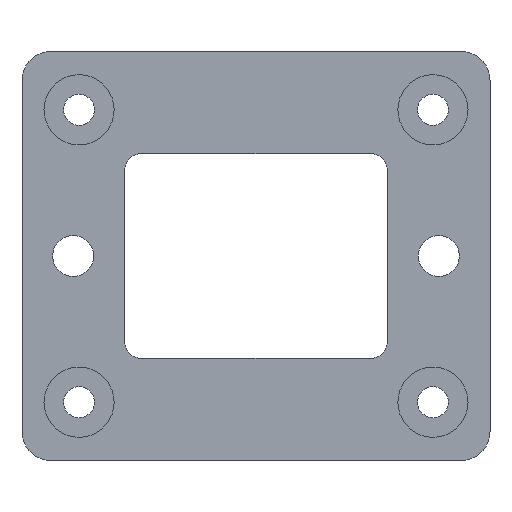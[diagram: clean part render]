
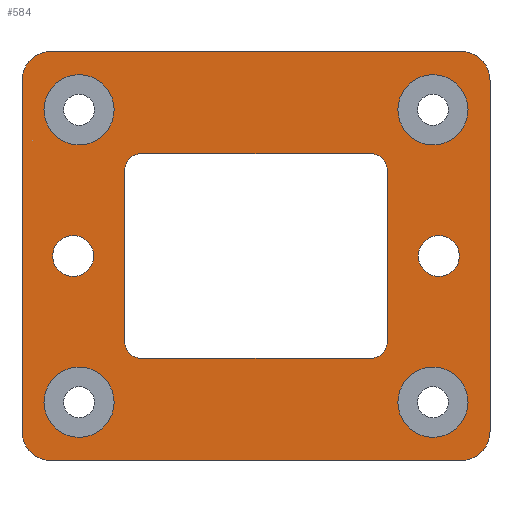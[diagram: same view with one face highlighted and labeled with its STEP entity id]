
A CAD part, front view. The second image highlights one B-rep face of the part: STEP entity #584.
In plain terms, the highlighted planar face has unit normal (0, -1, 0).
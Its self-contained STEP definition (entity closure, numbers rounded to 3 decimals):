
#26=FACE_BOUND('',#122,.T.);
#27=FACE_BOUND('',#123,.T.);
#28=FACE_BOUND('',#124,.T.);
#29=FACE_BOUND('',#125,.T.);
#30=FACE_BOUND('',#126,.T.);
#31=FACE_BOUND('',#127,.T.);
#32=FACE_BOUND('',#128,.T.);
#46=PLANE('',#666);
#78=FACE_OUTER_BOUND('',#121,.T.);
#121=EDGE_LOOP('',(#513,#514,#515,#516,#517,#518,#519,#520));
#122=EDGE_LOOP('',(#521));
#123=EDGE_LOOP('',(#522));
#124=EDGE_LOOP('',(#523));
#125=EDGE_LOOP('',(#524));
#126=EDGE_LOOP('',(#525));
#127=EDGE_LOOP('',(#526));
#128=EDGE_LOOP('',(#527,#528,#529,#530,#531,#532,#533,#534));
#141=LINE('',#923,#183);
#147=LINE('',#938,#189);
#151=LINE('',#950,#193);
#154=LINE('',#959,#196);
#161=LINE('',#985,#203);
#167=LINE('',#1000,#209);
#169=LINE('',#1006,#211);
#170=LINE('',#1008,#212);
#183=VECTOR('',#757,10.);
#189=VECTOR('',#771,10.);
#193=VECTOR('',#783,10.);
#196=VECTOR('',#794,10.);
#203=VECTOR('',#817,10.);
#209=VECTOR('',#833,10.);
#211=VECTOR('',#841,10.);
#212=VECTOR('',#844,10.);
#213=CIRCLE('',#600,6.);
#216=CIRCLE('',#605,6.);
#219=CIRCLE('',#610,6.);
#222=CIRCLE('',#615,6.);
#227=CIRCLE('',#624,3.5);
#231=CIRCLE('',#631,3.5);
#233=CIRCLE('',#634,3.);
#235=CIRCLE('',#638,3.);
#237=CIRCLE('',#642,3.);
#239=CIRCLE('',#646,3.);
#242=CIRCLE('',#651,5.);
#246=CIRCLE('',#658,5.);
#247=CIRCLE('',#660,5.);
#248=CIRCLE('',#663,5.);
#249=VERTEX_POINT('',#849);
#252=VERTEX_POINT('',#858);
#255=VERTEX_POINT('',#867);
#258=VERTEX_POINT('',#876);
#263=VERTEX_POINT('',#893);
#267=VERTEX_POINT('',#907);
#269=VERTEX_POINT('',#913);
#270=VERTEX_POINT('',#914);
#273=VERTEX_POINT('',#922);
#275=VERTEX_POINT('',#928);
#276=VERTEX_POINT('',#929);
#279=VERTEX_POINT('',#940);
#280=VERTEX_POINT('',#941);
#283=VERTEX_POINT('',#952);
#287=VERTEX_POINT('',#964);
#288=VERTEX_POINT('',#966);
#295=VERTEX_POINT('',#984);
#296=VERTEX_POINT('',#988);
#297=VERTEX_POINT('',#992);
#298=VERTEX_POINT('',#994);
#299=VERTEX_POINT('',#998);
#300=VERTEX_POINT('',#1002);
#301=EDGE_CURVE('',#249,#249,#213,.T.);
#305=EDGE_CURVE('',#252,#252,#216,.T.);
#309=EDGE_CURVE('',#255,#255,#219,.T.);
#313=EDGE_CURVE('',#258,#258,#222,.T.);
#321=EDGE_CURVE('',#263,#263,#227,.T.);
#328=EDGE_CURVE('',#267,#267,#231,.T.);
#331=EDGE_CURVE('',#269,#270,#233,.T.);
#335=EDGE_CURVE('',#273,#270,#141,.T.);
#338=EDGE_CURVE('',#275,#276,#235,.T.);
#343=EDGE_CURVE('',#269,#276,#147,.T.);
#344=EDGE_CURVE('',#279,#280,#237,.T.);
#349=EDGE_CURVE('',#275,#280,#151,.T.);
#350=EDGE_CURVE('',#273,#283,#239,.T.);
#354=EDGE_CURVE('',#279,#283,#154,.T.);
#357=EDGE_CURVE('',#287,#288,#242,.T.);
#366=EDGE_CURVE('',#288,#295,#161,.T.);
#368=EDGE_CURVE('',#295,#296,#246,.T.);
#371=EDGE_CURVE('',#297,#298,#247,.T.);
#374=EDGE_CURVE('',#299,#297,#167,.T.);
#376=EDGE_CURVE('',#300,#299,#248,.T.);
#377=EDGE_CURVE('',#296,#300,#169,.T.);
#378=EDGE_CURVE('',#298,#287,#170,.T.);
#513=ORIENTED_EDGE('',*,*,#357,.F.);
#514=ORIENTED_EDGE('',*,*,#378,.F.);
#515=ORIENTED_EDGE('',*,*,#371,.F.);
#516=ORIENTED_EDGE('',*,*,#374,.F.);
#517=ORIENTED_EDGE('',*,*,#376,.F.);
#518=ORIENTED_EDGE('',*,*,#377,.F.);
#519=ORIENTED_EDGE('',*,*,#368,.F.);
#520=ORIENTED_EDGE('',*,*,#366,.F.);
#521=ORIENTED_EDGE('',*,*,#301,.T.);
#522=ORIENTED_EDGE('',*,*,#305,.T.);
#523=ORIENTED_EDGE('',*,*,#309,.T.);
#524=ORIENTED_EDGE('',*,*,#313,.T.);
#525=ORIENTED_EDGE('',*,*,#321,.T.);
#526=ORIENTED_EDGE('',*,*,#328,.T.);
#527=ORIENTED_EDGE('',*,*,#335,.T.);
#528=ORIENTED_EDGE('',*,*,#331,.F.);
#529=ORIENTED_EDGE('',*,*,#343,.T.);
#530=ORIENTED_EDGE('',*,*,#338,.F.);
#531=ORIENTED_EDGE('',*,*,#349,.T.);
#532=ORIENTED_EDGE('',*,*,#344,.F.);
#533=ORIENTED_EDGE('',*,*,#354,.T.);
#534=ORIENTED_EDGE('',*,*,#350,.F.);
#584=ADVANCED_FACE('',(#78,#26,#27,#28,#29,#30,#31,#32),#46,.F.);
#600=AXIS2_PLACEMENT_3D('',#850,#671,#672);
#605=AXIS2_PLACEMENT_3D('',#859,#682,#683);
#610=AXIS2_PLACEMENT_3D('',#868,#693,#694);
#615=AXIS2_PLACEMENT_3D('',#877,#704,#705);
#624=AXIS2_PLACEMENT_3D('',#894,#725,#726);
#631=AXIS2_PLACEMENT_3D('',#908,#742,#743);
#634=AXIS2_PLACEMENT_3D('',#915,#749,#750);
#638=AXIS2_PLACEMENT_3D('',#930,#762,#763);
#642=AXIS2_PLACEMENT_3D('',#942,#774,#775);
#646=AXIS2_PLACEMENT_3D('',#953,#786,#787);
#651=AXIS2_PLACEMENT_3D('',#967,#800,#801);
#658=AXIS2_PLACEMENT_3D('',#989,#821,#822);
#660=AXIS2_PLACEMENT_3D('',#995,#827,#828);
#663=AXIS2_PLACEMENT_3D('',#1004,#837,#838);
#666=AXIS2_PLACEMENT_3D('',#1009,#845,#846);
#671=DIRECTION('center_axis',(0.,1.,0.));
#672=DIRECTION('ref_axis',(1.,0.,0.));
#682=DIRECTION('center_axis',(0.,1.,0.));
#683=DIRECTION('ref_axis',(1.,0.,0.));
#693=DIRECTION('center_axis',(0.,1.,0.));
#694=DIRECTION('ref_axis',(1.,0.,0.));
#704=DIRECTION('center_axis',(0.,1.,0.));
#705=DIRECTION('ref_axis',(1.,0.,0.));
#725=DIRECTION('center_axis',(0.,1.,0.));
#726=DIRECTION('ref_axis',(1.,0.,0.));
#742=DIRECTION('center_axis',(0.,1.,0.));
#743=DIRECTION('ref_axis',(1.,0.,0.));
#749=DIRECTION('center_axis',(0.,-1.,0.));
#750=DIRECTION('ref_axis',(-0.707,0.,0.707));
#757=DIRECTION('',(0.,0.,1.));
#762=DIRECTION('center_axis',(0.,-1.,0.));
#763=DIRECTION('ref_axis',(0.707,0.,0.707));
#771=DIRECTION('',(1.,0.,0.));
#774=DIRECTION('center_axis',(0.,-1.,0.));
#775=DIRECTION('ref_axis',(0.707,0.,-0.707));
#783=DIRECTION('',(0.,0.,-1.));
#786=DIRECTION('center_axis',(0.,-1.,0.));
#787=DIRECTION('ref_axis',(-0.707,0.,-0.707));
#794=DIRECTION('',(-1.,0.,0.));
#800=DIRECTION('center_axis',(0.,1.,0.));
#801=DIRECTION('ref_axis',(-0.707,0.,-0.707));
#817=DIRECTION('',(0.,0.,1.));
#821=DIRECTION('center_axis',(0.,1.,0.));
#822=DIRECTION('ref_axis',(-0.707,0.,0.707));
#827=DIRECTION('center_axis',(0.,1.,0.));
#828=DIRECTION('ref_axis',(0.707,0.,-0.707));
#833=DIRECTION('',(0.,0.,-1.));
#837=DIRECTION('center_axis',(0.,1.,0.));
#838=DIRECTION('ref_axis',(0.707,0.,0.707));
#841=DIRECTION('',(1.,0.,0.));
#844=DIRECTION('',(-1.,0.,0.));
#845=DIRECTION('center_axis',(0.,1.,0.));
#846=DIRECTION('ref_axis',(1.,0.,0.));
#849=CARTESIAN_POINT('',(24.25,0.,25.));
#850=CARTESIAN_POINT('Origin',(30.25,0.,25.));
#858=CARTESIAN_POINT('',(24.25,0.,-25.));
#859=CARTESIAN_POINT('Origin',(30.25,0.,-25.));
#867=CARTESIAN_POINT('',(-36.25,0.,25.));
#868=CARTESIAN_POINT('Origin',(-30.25,0.,25.));
#876=CARTESIAN_POINT('',(-36.25,0.,-25.));
#877=CARTESIAN_POINT('Origin',(-30.25,0.,-25.));
#893=CARTESIAN_POINT('',(27.75,0.,0.));
#894=CARTESIAN_POINT('Origin',(31.25,0.,0.));
#907=CARTESIAN_POINT('',(-34.75,0.,0.));
#908=CARTESIAN_POINT('Origin',(-31.25,0.,0.));
#913=CARTESIAN_POINT('',(-19.5,0.,17.5));
#914=CARTESIAN_POINT('',(-22.5,0.,14.5));
#915=CARTESIAN_POINT('Origin',(-19.5,0.,14.5));
#922=CARTESIAN_POINT('',(-22.5,0.,-14.5));
#923=CARTESIAN_POINT('',(-22.5,0.,-8.75));
#928=CARTESIAN_POINT('',(22.5,0.,14.5));
#929=CARTESIAN_POINT('',(19.5,0.,17.5));
#930=CARTESIAN_POINT('Origin',(19.5,0.,14.5));
#938=CARTESIAN_POINT('',(-11.25,0.,17.5));
#940=CARTESIAN_POINT('',(19.5,0.,-17.5));
#941=CARTESIAN_POINT('',(22.5,0.,-14.5));
#942=CARTESIAN_POINT('Origin',(19.5,0.,-14.5));
#950=CARTESIAN_POINT('',(22.5,0.,8.75));
#952=CARTESIAN_POINT('',(-19.5,0.,-17.5));
#953=CARTESIAN_POINT('Origin',(-19.5,0.,-14.5));
#959=CARTESIAN_POINT('',(11.25,0.,-17.5));
#964=CARTESIAN_POINT('',(-35.,0.,-35.));
#966=CARTESIAN_POINT('',(-40.,0.,-30.));
#967=CARTESIAN_POINT('Origin',(-35.,0.,-30.));
#984=CARTESIAN_POINT('',(-40.,0.,30.));
#985=CARTESIAN_POINT('',(-40.,0.,-35.));
#988=CARTESIAN_POINT('',(-35.,0.,35.));
#989=CARTESIAN_POINT('Origin',(-35.,0.,30.));
#992=CARTESIAN_POINT('',(40.,0.,-30.));
#994=CARTESIAN_POINT('',(35.,0.,-35.));
#995=CARTESIAN_POINT('Origin',(35.,0.,-30.));
#998=CARTESIAN_POINT('',(40.,0.,30.));
#1000=CARTESIAN_POINT('',(40.,0.,35.));
#1002=CARTESIAN_POINT('',(35.,0.,35.));
#1004=CARTESIAN_POINT('Origin',(35.,0.,30.));
#1006=CARTESIAN_POINT('',(-40.,0.,35.));
#1008=CARTESIAN_POINT('',(40.,0.,-35.));
#1009=CARTESIAN_POINT('Origin',(0.,0.,0.));
